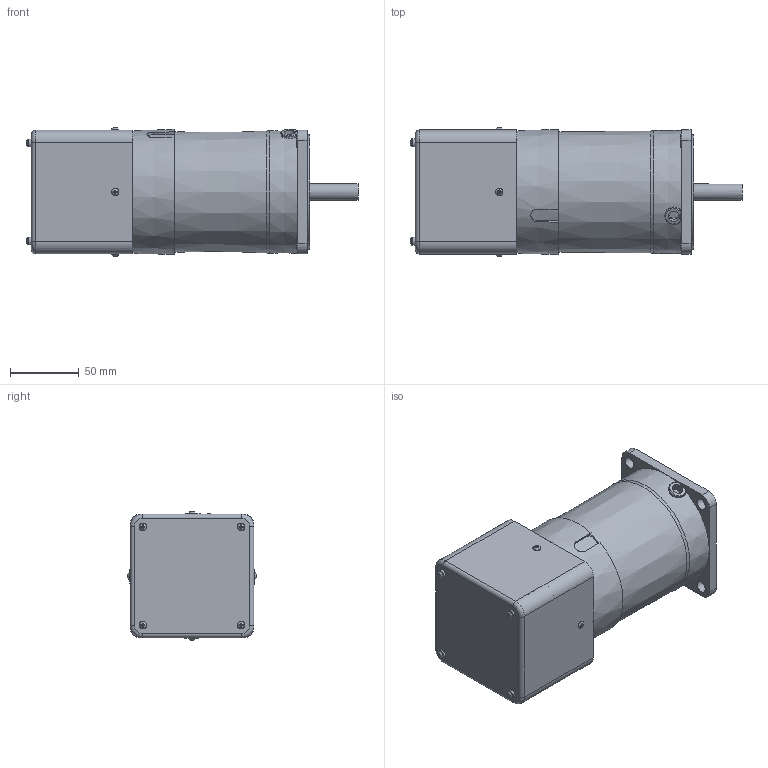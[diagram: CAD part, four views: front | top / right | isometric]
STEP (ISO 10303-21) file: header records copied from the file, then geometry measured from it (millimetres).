
FILE_DESCRIPTION(/* description */ (''),/* implementation_level */ '2;1');
FILE_NAME(/* name */ 'Y:\제품연구개발\3. 도면\3. 고객배포용\3D_홈페이지용\01-1 Standard AC SG Series\05-3 SPEED CONTROL ELECTROMAGNETIC BRAKE MOTOR(ES)\SG9R60_-ES12\SG9R60K-ES.stp',/* time_stamp */ '2023-12-01T09:37:23+09:00',/* author */ ('shyi1037'),/* organization */ (''),/* preprocessor_version */ 'ST-DEVELOPER v18.1',/* originating_system */ 'Autodesk Inventor 2022',/* authorisation */ '');
FILE_SCHEMA (('AUTOMOTIVE_DESIGN { 1 0 10303 214 3 1 1 }'));
Length unit declared in the file: millimetre
Products named in the file (1): S9R60K-ES
Bounding box: 241.25 x 93.89 x 93.89 mm (x, y, z)
Volume: 1128994.9 mm3; surface area: 113400.4 mm2
Topology: 1 solids, 7 shells, 294 faces, 725 edges, 476 vertices
Faces by surface type: plane 180, cylinder 73, torus 26, bspline 8, cone 7
Full cylindrical faces by diameter (mm): 3 x8, 4.5 x4, 5.6 x12, 8 x1, 8.5 x4, 9.5 x4, 10 x1, 12 x1, 40 x1, 83 x1, 86 x1
Entity records: 9473 total; most frequent: CARTESIAN_POINT 2414, ORIENTED_EDGE 1450, DIRECTION 1402, EDGE_CURVE 725, AXIS2_PLACEMENT_3D 512, VERTEX_POINT 476, LINE 378, VECTOR 378
